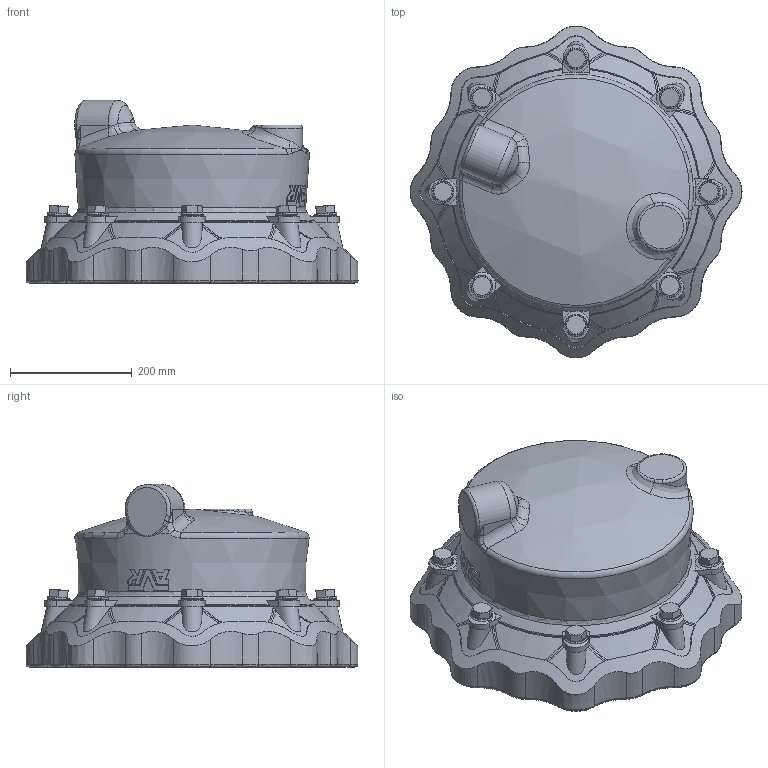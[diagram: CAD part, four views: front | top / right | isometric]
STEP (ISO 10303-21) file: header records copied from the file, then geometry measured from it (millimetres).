
FILE_DESCRIPTION (( 'STEP AP203' ), '1' );
FILE_NAME ('O_634_00_DN300_314-356mm_AA0_step.step', '2016-05-10T10:46:06', ( 'Windows User' ), ( 'AVK' ), 'SwSTEP 2.0', 'SolidWorks 2012', '' );
FILE_SCHEMA (( 'CONFIG_CONTROL_DESIGN' ));
Length unit declared in the file: millimetre
Products named in the file (1): O_634_00_DN300_314-356mm_AA0_step
Bounding box: 544.47 x 544.47 x 300.51 mm (x, y, z)
Volume: 13232176.7 mm3; surface area: 969139.5 mm2
Topology: 1 solids, 1 shells, 777 faces, 2069 edges, 1314 vertices
Faces by surface type: plane 268, bspline 240, cylinder 121, cone 82, torus 56, sphere 10
Full cylindrical faces by diameter (mm): 30 x8, 356 x3
Entity records: 38174 total; most frequent: CARTESIAN_POINT 22055, ORIENTED_EDGE 4058, DIRECTION 2396, EDGE_CURVE 2029, VERTEX_POINT 1301, AXIS2_PLACEMENT_3D 921, EDGE_LOOP 824, B_SPLINE_CURVE_WITH_KNOTS 823
